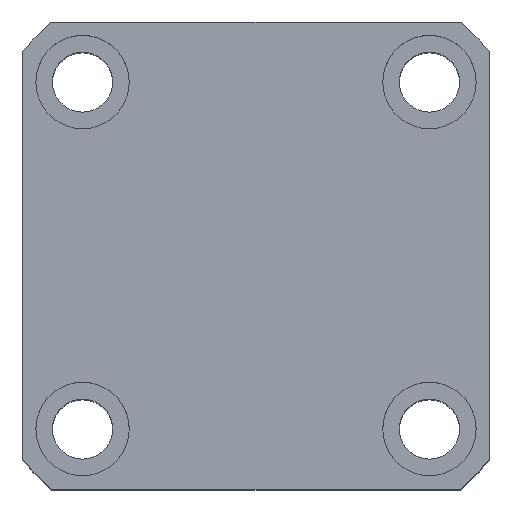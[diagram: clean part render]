
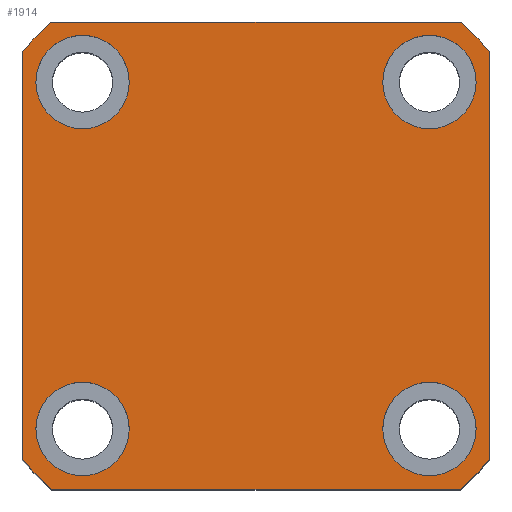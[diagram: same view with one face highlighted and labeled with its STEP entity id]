
A CAD part, top view. The second image highlights one B-rep face of the part: STEP entity #1914.
In plain terms, the highlighted planar face has unit normal (0, 0, 1).
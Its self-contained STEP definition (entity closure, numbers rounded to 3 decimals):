
#45 = DIRECTION ( 'NONE',  ( 0., 0., 1. ) ) ;
#74 = EDGE_LOOP ( 'NONE', ( #7357, #12341 ) ) ;
#213 = CARTESIAN_POINT ( 'NONE',  ( 30.615, 35., 85. ) ) ;
#226 = DIRECTION ( 'NONE',  ( 1., 0., 0. ) ) ;
#360 = DIRECTION ( 'NONE',  ( 1., 0., 0. ) ) ;
#472 = ORIENTED_EDGE ( 'NONE', *, *, #2501, .F. ) ;
#535 = DIRECTION ( 'NONE',  ( 0., 0., 1. ) ) ;
#644 = AXIS2_PLACEMENT_3D ( 'NONE', #8583, #2325, #9619 ) ;
#756 = DIRECTION ( 'NONE',  ( 0., 1., 0. ) ) ;
#831 = CIRCLE ( 'NONE', #644, 7. ) ;
#959 = CARTESIAN_POINT ( 'NONE',  ( -30.615, -35., 85. ) ) ;
#1048 = CARTESIAN_POINT ( 'NONE',  ( -26., 26., 85. ) ) ;
#1147 = CARTESIAN_POINT ( 'NONE',  ( -19., -26., 85. ) ) ;
#1231 = EDGE_CURVE ( 'NONE', #13232, #13497, #10948, .T. ) ;
#1315 = VERTEX_POINT ( 'NONE', #213 ) ;
#1443 = ORIENTED_EDGE ( 'NONE', *, *, #11989, .F. ) ;
#1453 = CARTESIAN_POINT ( 'NONE',  ( -19., 26., 85. ) ) ;
#1499 = VERTEX_POINT ( 'NONE', #12527 ) ;
#1511 = CARTESIAN_POINT ( 'NONE',  ( -26., 26., 85. ) ) ;
#1573 = DIRECTION ( 'NONE',  ( 0., 0., 1. ) ) ;
#1644 = CARTESIAN_POINT ( 'NONE',  ( 35., -30.615, 85. ) ) ;
#1671 = EDGE_CURVE ( 'NONE', #9390, #9000, #8996, .T. ) ;
#1690 = VERTEX_POINT ( 'NONE', #13114 ) ;
#1738 = CARTESIAN_POINT ( 'NONE',  ( -35., 35., 85. ) ) ;
#1862 = CIRCLE ( 'NONE', #2032, 7. ) ;
#1914 = ADVANCED_FACE ( 'NONE', ( #10784, #11422, #11098, #8334, #8011 ), #9681, .T. ) ;
#2032 = AXIS2_PLACEMENT_3D ( 'NONE', #1511, #8815, #2555 ) ;
#2055 = ORIENTED_EDGE ( 'NONE', *, *, #6237, .F. ) ;
#2094 = DIRECTION ( 'NONE',  ( 1., 0., 0. ) ) ;
#2130 = EDGE_CURVE ( 'NONE', #2252, #9390, #12252, .T. ) ;
#2192 = CARTESIAN_POINT ( 'NONE',  ( 35., 30.615, 85. ) ) ;
#2252 = VERTEX_POINT ( 'NONE', #959 ) ;
#2297 = ORIENTED_EDGE ( 'NONE', *, *, #8486, .T. ) ;
#2302 = ORIENTED_EDGE ( 'NONE', *, *, #1231, .F. ) ;
#2325 = DIRECTION ( 'NONE',  ( 0., 0., 1. ) ) ;
#2501 = EDGE_CURVE ( 'NONE', #7717, #1690, #831, .T. ) ;
#2547 = CIRCLE ( 'NONE', #10422, 46.5 ) ;
#2555 = DIRECTION ( 'NONE',  ( 1., 0., 0. ) ) ;
#2612 = CARTESIAN_POINT ( 'NONE',  ( 0., 0., 85. ) ) ;
#2711 = VERTEX_POINT ( 'NONE', #4577 ) ;
#2828 = CIRCLE ( 'NONE', #5548, 46.5 ) ;
#2981 = AXIS2_PLACEMENT_3D ( 'NONE', #8695, #8651, #7590 ) ;
#3037 = LINE ( 'NONE', #8035, #13186 ) ;
#3048 = CIRCLE ( 'NONE', #12030, 7. ) ;
#3106 = CARTESIAN_POINT ( 'NONE',  ( -35., 30.615, 85. ) ) ;
#3167 = ORIENTED_EDGE ( 'NONE', *, *, #2130, .T. ) ;
#3340 = DIRECTION ( 'NONE',  ( 0., 0., 1. ) ) ;
#3508 = AXIS2_PLACEMENT_3D ( 'NONE', #12714, #6465, #226 ) ;
#3629 = EDGE_CURVE ( 'NONE', #2711, #12879, #2547, .T. ) ;
#3641 = DIRECTION ( 'NONE',  ( 1., 0., 0. ) ) ;
#3891 = VECTOR ( 'NONE', #8157, 1000. ) ;
#4115 = LINE ( 'NONE', #1738, #9702 ) ;
#4122 = AXIS2_PLACEMENT_3D ( 'NONE', #1048, #8338, #2094 ) ;
#4287 = DIRECTION ( 'NONE',  ( 0., 0., 1. ) ) ;
#4566 = CARTESIAN_POINT ( 'NONE',  ( -33., 26., 85. ) ) ;
#4577 = CARTESIAN_POINT ( 'NONE',  ( -30.615, 35., 85. ) ) ;
#4816 = EDGE_CURVE ( 'NONE', #1499, #9369, #8066, .T. ) ;
#4959 = EDGE_CURVE ( 'NONE', #9369, #1499, #12993, .T. ) ;
#5003 = AXIS2_PLACEMENT_3D ( 'NONE', #11316, #5063, #12391 ) ;
#5063 = DIRECTION ( 'NONE',  ( 0., 0., 1. ) ) ;
#5175 = VERTEX_POINT ( 'NONE', #4566 ) ;
#5184 = CARTESIAN_POINT ( 'NONE',  ( -35., 35., 85. ) ) ;
#5548 = AXIS2_PLACEMENT_3D ( 'NONE', #2612, #9893, #3641 ) ;
#5624 = EDGE_CURVE ( 'NONE', #1315, #2711, #4115, .T. ) ;
#5671 = EDGE_LOOP ( 'NONE', ( #6134, #7556, #11533, #10488, #10601, #2297, #3167, #12858 ) ) ;
#5766 = CARTESIAN_POINT ( 'NONE',  ( 19., -26., 85. ) ) ;
#6092 = VECTOR ( 'NONE', #12502, 1000. ) ;
#6134 = ORIENTED_EDGE ( 'NONE', *, *, #13406, .T. ) ;
#6237 = EDGE_CURVE ( 'NONE', #5175, #7249, #1862, .T. ) ;
#6285 = CARTESIAN_POINT ( 'NONE',  ( 26., 26., 85. ) ) ;
#6317 = CARTESIAN_POINT ( 'NONE',  ( 33., 26., 85. ) ) ;
#6465 = DIRECTION ( 'NONE',  ( 0., 0., 1. ) ) ;
#6582 = AXIS2_PLACEMENT_3D ( 'NONE', #6285, #45, #7314 ) ;
#6763 = AXIS2_PLACEMENT_3D ( 'NONE', #9720, #9162, #8863 ) ;
#6813 = CIRCLE ( 'NONE', #9149, 7. ) ;
#7249 = VERTEX_POINT ( 'NONE', #1453 ) ;
#7314 = DIRECTION ( 'NONE',  ( 1., 0., 0. ) ) ;
#7357 = ORIENTED_EDGE ( 'NONE', *, *, #4959, .F. ) ;
#7465 = CIRCLE ( 'NONE', #5003, 46.5 ) ;
#7514 = EDGE_LOOP ( 'NONE', ( #13423, #2302 ) ) ;
#7556 = ORIENTED_EDGE ( 'NONE', *, *, #11870, .T. ) ;
#7590 = DIRECTION ( 'NONE',  ( 1., 0., 0. ) ) ;
#7717 = VERTEX_POINT ( 'NONE', #1147 ) ;
#7813 = CARTESIAN_POINT ( 'NONE',  ( 0., 0., 85. ) ) ;
#8011 = FACE_OUTER_BOUND ( 'NONE', #5671, .T. ) ;
#8035 = CARTESIAN_POINT ( 'NONE',  ( 35., 35., 85. ) ) ;
#8066 = CIRCLE ( 'NONE', #6582, 7. ) ;
#8157 = DIRECTION ( 'NONE',  ( 1., 0., 0. ) ) ;
#8334 = FACE_BOUND ( 'NONE', #10091, .T. ) ;
#8338 = DIRECTION ( 'NONE',  ( 0., 0., 1. ) ) ;
#8486 = EDGE_CURVE ( 'NONE', #11279, #2252, #2828, .T. ) ;
#8583 = CARTESIAN_POINT ( 'NONE',  ( -26., -26., 85. ) ) ;
#8644 = CIRCLE ( 'NONE', #4122, 7. ) ;
#8651 = DIRECTION ( 'NONE',  ( 0., 0., 1. ) ) ;
#8695 = CARTESIAN_POINT ( 'NONE',  ( 0., 0., 85. ) ) ;
#8815 = DIRECTION ( 'NONE',  ( 0., 0., 1. ) ) ;
#8863 = DIRECTION ( 'NONE',  ( 1., 0., 0. ) ) ;
#8880 = DIRECTION ( 'NONE',  ( 1., 0., 0. ) ) ;
#8901 = EDGE_CURVE ( 'NONE', #12879, #11279, #11637, .T. ) ;
#8996 = CIRCLE ( 'NONE', #6763, 46.5 ) ;
#9000 = VERTEX_POINT ( 'NONE', #1644 ) ;
#9149 = AXIS2_PLACEMENT_3D ( 'NONE', #9602, #3340, #10628 ) ;
#9162 = DIRECTION ( 'NONE',  ( 0., 0., 1. ) ) ;
#9304 = AXIS2_PLACEMENT_3D ( 'NONE', #13196, #535, #360 ) ;
#9369 = VERTEX_POINT ( 'NONE', #6317 ) ;
#9390 = VERTEX_POINT ( 'NONE', #12615 ) ;
#9602 = CARTESIAN_POINT ( 'NONE',  ( 26., -26., 85. ) ) ;
#9619 = DIRECTION ( 'NONE',  ( 1., 0., 0. ) ) ;
#9681 = PLANE ( 'NONE',  #2981 ) ;
#9702 = VECTOR ( 'NONE', #11112, 1000. ) ;
#9720 = CARTESIAN_POINT ( 'NONE',  ( 0., 0., 85. ) ) ;
#9893 = DIRECTION ( 'NONE',  ( 0., 0., 1. ) ) ;
#10091 = EDGE_LOOP ( 'NONE', ( #10811, #2055 ) ) ;
#10215 = CARTESIAN_POINT ( 'NONE',  ( -35., -35., 85. ) ) ;
#10422 = AXIS2_PLACEMENT_3D ( 'NONE', #7813, #1573, #8880 ) ;
#10440 = VERTEX_POINT ( 'NONE', #2192 ) ;
#10488 = ORIENTED_EDGE ( 'NONE', *, *, #3629, .T. ) ;
#10535 = CARTESIAN_POINT ( 'NONE',  ( -26., -26., 85. ) ) ;
#10601 = ORIENTED_EDGE ( 'NONE', *, *, #8901, .T. ) ;
#10628 = DIRECTION ( 'NONE',  ( 1., 0., 0. ) ) ;
#10784 = FACE_BOUND ( 'NONE', #11857, .T. ) ;
#10811 = ORIENTED_EDGE ( 'NONE', *, *, #11013, .F. ) ;
#10948 = CIRCLE ( 'NONE', #9304, 7. ) ;
#11013 = EDGE_CURVE ( 'NONE', #7249, #5175, #8644, .T. ) ;
#11098 = FACE_BOUND ( 'NONE', #74, .T. ) ;
#11112 = DIRECTION ( 'NONE',  ( -1., 0., 0. ) ) ;
#11279 = VERTEX_POINT ( 'NONE', #11905 ) ;
#11316 = CARTESIAN_POINT ( 'NONE',  ( 0., 0., 85. ) ) ;
#11422 = FACE_BOUND ( 'NONE', #7514, .T. ) ;
#11533 = ORIENTED_EDGE ( 'NONE', *, *, #5624, .T. ) ;
#11596 = DIRECTION ( 'NONE',  ( 1., 0., 0. ) ) ;
#11637 = LINE ( 'NONE', #5184, #6092 ) ;
#11857 = EDGE_LOOP ( 'NONE', ( #472, #1443 ) ) ;
#11870 = EDGE_CURVE ( 'NONE', #10440, #1315, #7465, .T. ) ;
#11905 = CARTESIAN_POINT ( 'NONE',  ( -35., -30.615, 85. ) ) ;
#11989 = EDGE_CURVE ( 'NONE', #1690, #7717, #3048, .T. ) ;
#12030 = AXIS2_PLACEMENT_3D ( 'NONE', #10535, #4287, #11596 ) ;
#12252 = LINE ( 'NONE', #10215, #3891 ) ;
#12341 = ORIENTED_EDGE ( 'NONE', *, *, #4816, .F. ) ;
#12391 = DIRECTION ( 'NONE',  ( 1., 0., 0. ) ) ;
#12502 = DIRECTION ( 'NONE',  ( 0., -1., 0. ) ) ;
#12527 = CARTESIAN_POINT ( 'NONE',  ( 19., 26., 85. ) ) ;
#12615 = CARTESIAN_POINT ( 'NONE',  ( 30.615, -35., 85. ) ) ;
#12714 = CARTESIAN_POINT ( 'NONE',  ( 26., 26., 85. ) ) ;
#12858 = ORIENTED_EDGE ( 'NONE', *, *, #1671, .T. ) ;
#12879 = VERTEX_POINT ( 'NONE', #3106 ) ;
#12993 = CIRCLE ( 'NONE', #3508, 7. ) ;
#13037 = EDGE_CURVE ( 'NONE', #13497, #13232, #6813, .T. ) ;
#13114 = CARTESIAN_POINT ( 'NONE',  ( -33., -26., 85. ) ) ;
#13186 = VECTOR ( 'NONE', #756, 1000. ) ;
#13196 = CARTESIAN_POINT ( 'NONE',  ( 26., -26., 85. ) ) ;
#13232 = VERTEX_POINT ( 'NONE', #5766 ) ;
#13308 = CARTESIAN_POINT ( 'NONE',  ( 33., -26., 85. ) ) ;
#13406 = EDGE_CURVE ( 'NONE', #9000, #10440, #3037, .T. ) ;
#13423 = ORIENTED_EDGE ( 'NONE', *, *, #13037, .F. ) ;
#13497 = VERTEX_POINT ( 'NONE', #13308 ) ;
